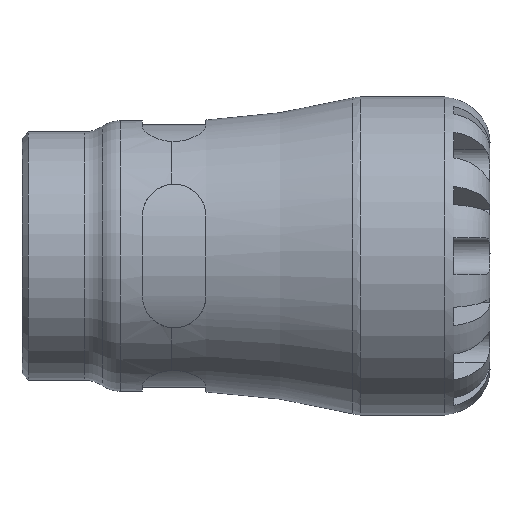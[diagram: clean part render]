
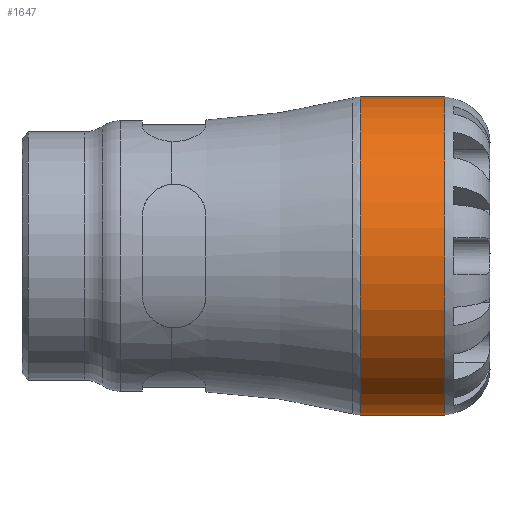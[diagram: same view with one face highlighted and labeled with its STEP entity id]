
A CAD part, front view. The second image highlights one B-rep face of the part: STEP entity #1647.
In plain terms, the highlighted cylindrical face has radius 35 mm (diameter 70 mm), a full revolution.
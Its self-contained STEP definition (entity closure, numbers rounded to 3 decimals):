
#259=FACE_BOUND('',#422,.T.);
#301=FACE_OUTER_BOUND('',#421,.T.);
#421=EDGE_LOOP('',(#1250));
#422=EDGE_LOOP('',(#1251));
#560=CIRCLE('',#1814,35.);
#561=CIRCLE('',#1816,35.);
#748=VERTEX_POINT('',#2930);
#749=VERTEX_POINT('',#2933);
#932=EDGE_CURVE('',#748,#748,#560,.T.);
#933=EDGE_CURVE('',#749,#749,#561,.T.);
#1250=ORIENTED_EDGE('',*,*,#933,.F.);
#1251=ORIENTED_EDGE('',*,*,#932,.F.);
#1594=CYLINDRICAL_SURFACE('',#1815,35.);
#1647=ADVANCED_FACE('',(#301,#259),#1594,.T.);
#1814=AXIS2_PLACEMENT_3D('',#2931,#2127,#2128);
#1815=AXIS2_PLACEMENT_3D('',#2932,#2129,#2130);
#1816=AXIS2_PLACEMENT_3D('',#2934,#2131,#2132);
#2127=DIRECTION('center_axis',(-1.,0.,0.));
#2128=DIRECTION('ref_axis',(0.,-1.,0.));
#2129=DIRECTION('center_axis',(1.,0.,0.));
#2130=DIRECTION('ref_axis',(0.,1.,0.));
#2131=DIRECTION('center_axis',(1.,0.,0.));
#2132=DIRECTION('ref_axis',(0.,0.,-1.));
#2930=CARTESIAN_POINT('',(74.495,35.,0.));
#2931=CARTESIAN_POINT('Origin',(74.495,0.,0.));
#2932=CARTESIAN_POINT('Origin',(83.3,0.,0.));
#2933=CARTESIAN_POINT('',(93.,35.,0.));
#2934=CARTESIAN_POINT('Origin',(93.,0.,0.));
